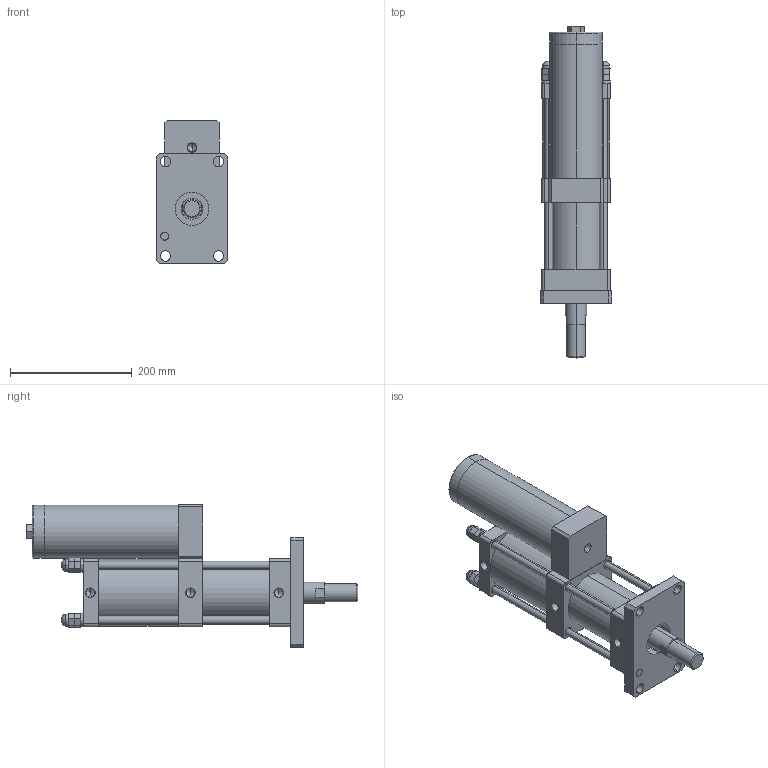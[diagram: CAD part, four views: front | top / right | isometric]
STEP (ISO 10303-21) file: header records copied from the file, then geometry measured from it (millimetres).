
FILE_DESCRIPTION (( 'STEP AP203' ), '1' );
FILE_NAME ('CPT-80-50-5-8T.STEP', '2016-03-11T03:02:43', ( 'WIN' ), ( '' ), 'SwSTEP 2.0', 'SolidWorks 2014', '' );
FILE_SCHEMA (( 'CONFIG_CONTROL_DESIGN' ));
Length unit declared in the file: millimetre
Products named in the file (1): CPT-80-50-5-8T
Bounding box: 118 x 545 x 235 mm (x, y, z)
Volume: 4302748.6 mm3; surface area: 530152 mm2
Topology: 17 solids, 17 shells, 388 faces, 959 edges, 560 vertices
Faces by surface type: plane 180, cylinder 90, bspline 48, torus 46, cone 24
Entity records: 12571 total; most frequent: CARTESIAN_POINT 3666, DIRECTION 1872, ORIENTED_EDGE 1786, EDGE_CURVE 893, AXIS2_PLACEMENT_3D 686, VERTEX_POINT 560, LINE 500, VECTOR 500
